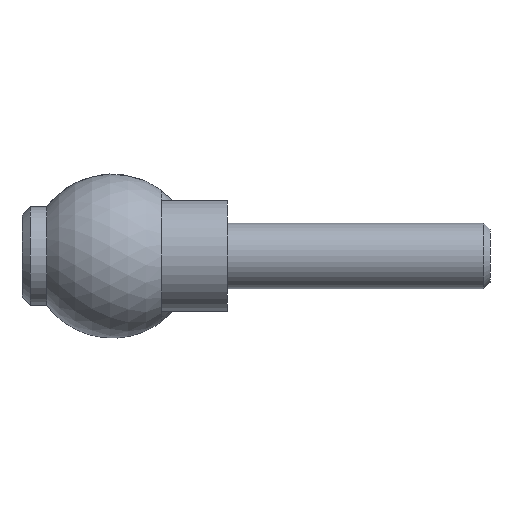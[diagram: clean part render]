
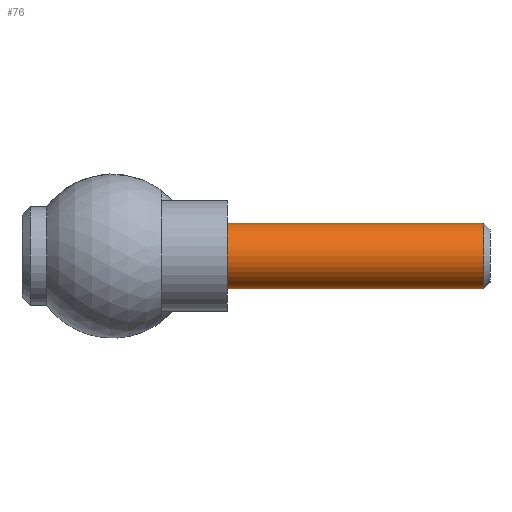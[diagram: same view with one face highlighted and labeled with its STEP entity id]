
A CAD part, left-side view. The second image highlights one B-rep face of the part: STEP entity #76.
In plain terms, the highlighted cylindrical face has radius 4 mm (diameter 8 mm), a full revolution.
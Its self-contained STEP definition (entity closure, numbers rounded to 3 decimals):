
#76 = ADVANCED_FACE( '', ( #92, #93 ), #94, .T. );
#92 = FACE_OUTER_BOUND( '', #130, .T. );
#93 = FACE_OUTER_BOUND( '', #131, .T. );
#94 = CYLINDRICAL_SURFACE( '', #132, 4. );
#130 = EDGE_LOOP( '', ( #170 ) );
#131 = EDGE_LOOP( '', ( #171 ) );
#132 = AXIS2_PLACEMENT_3D( '', #172, #173, #174 );
#170 = ORIENTED_EDGE( '', *, *, #230, .F. );
#171 = ORIENTED_EDGE( '', *, *, #231, .T. );
#172 = CARTESIAN_POINT( '', ( 0., -32., 0. ) );
#173 = DIRECTION( '', ( 0., 1., 0. ) );
#174 = DIRECTION( '', ( 0., 0., -1. ) );
#230 = EDGE_CURVE( '', #244, #244, #245, .T. );
#231 = EDGE_CURVE( '', #246, #246, #247, .T. );
#244 = VERTEX_POINT( '', #268 );
#245 = CIRCLE( '', #269, 4. );
#246 = VERTEX_POINT( '', #270 );
#247 = CIRCLE( '', #271, 4. );
#268 = CARTESIAN_POINT( '', ( 0., -31.233, -4. ) );
#269 = AXIS2_PLACEMENT_3D( '', #293, #294, #295 );
#270 = CARTESIAN_POINT( '', ( 0., 0., -4. ) );
#271 = AXIS2_PLACEMENT_3D( '', #296, #297, #298 );
#293 = CARTESIAN_POINT( '', ( 0., -31.233, 0. ) );
#294 = DIRECTION( '', ( 0., -1., 0. ) );
#295 = DIRECTION( '', ( 0., 0., -1. ) );
#296 = CARTESIAN_POINT( '', ( 0., 0., 0. ) );
#297 = DIRECTION( '', ( 0., -1., 0. ) );
#298 = DIRECTION( '', ( 0., 0., -1. ) );
